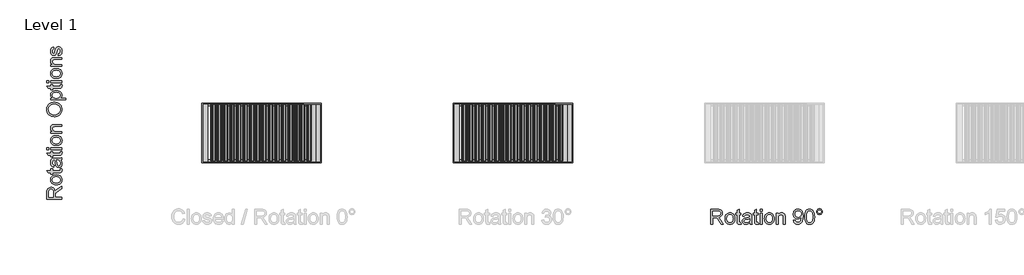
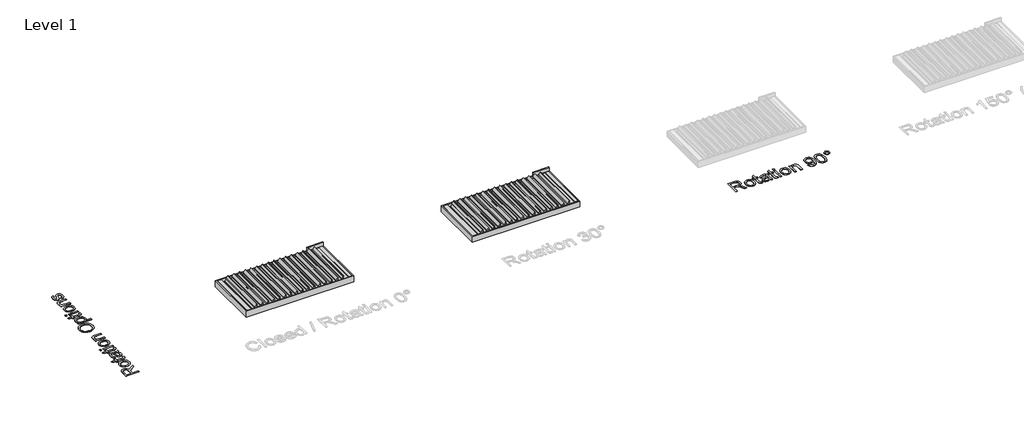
# One storey, part 8 of 12: 4 proxies.
"""IFC4 building model written with IfcOpenShell, lengths in millimetres."""

from ifc_helpers import new_model, si_unit, origin, origin_with_axes, place, context, project, spatial, polyline, outline, extrude, transform, mapped, element, save
from components import generic_models_456f33a1

model = new_model("IFC4")

# Units and contexts
model_context = context("Model", 3, world=origin())
ifc_project = project(units=[si_unit("LENGTHUNIT", "METRE", prefix="MILLI")], contexts=[model_context])

# Site, building, storey
site = spatial("IfcSite", under=ifc_project)
building = spatial("IfcBuilding", under=site)
storey = spatial("IfcBuildingStorey", under=building, Name="Level 1", Elevation=0.0)

# Proxies
placement = place(None, origin())
generic_models_shape = generic_models_456f33a1(model_context)
element("IfcBuildingElementProxy", 1, Name="Renson_Aero_Patio covers : Aero - Single", ObjectType="Renson_Aero_Patio covers : Aero - Single", at=placement, inside=storey, context=model_context, shape_type="MappedRepresentation", body=[
    mapped(generic_models_shape, transform((-9296.834943, 17701.5921629, 0.0), x_axis=(1.0, 0.0, 0.0), y_axis=(0.0, 1.0, 0.0), z_axis=(0.0, 0.0, 1.0))),
])
element("IfcBuildingElementProxy", 2, Name="Renson_Aero_Patio covers : Aero - Single", ObjectType="Renson_Aero_Patio covers : Aero - Single", at=placement, inside=storey, context=model_context, shape_type="MappedRepresentation", body=[
    mapped(generic_models_shape, transform((-876.4919488, 17701.5921629, 0.0), x_axis=(1.0, 0.0, 0.0), y_axis=(0.0, 1.0, 0.0), z_axis=(0.0, 0.0, 1.0))),
])
element("IfcBuildingElementProxy", 3, Name="500mm Arial", ObjectType="500mm Arial", at=placement, inside=storey, context=model_context, shape_type="SweptSolid", body=[
    extrude(outline(polyline([(-15987.0073412, 15483.5143669), (-16489.2888919, 15483.5143669), (-16489.2888919, 15699.9516074), (-16485.9013119, 15758.1229479), (-16475.7385718, 15800.4447058), (-16456.97659, 15831.3774502), (-16427.7912851, 15855.3817504), (-16391.6008938, 15870.7868089), (-16351.823653, 15875.9218284), (-16326.0259281, 15873.7950107), (-16302.3435247, 15867.4145573), (-16280.7764427, 15856.7804684), (-16261.3246822, 15841.8927439), (-16244.6090441, 15822.5597786), (-16231.2503291, 15798.5899674), (-16221.2485374, 15769.9833102), (-16214.6036688, 15736.7398069), (-16201.0840055, 15757.4331692), (-16187.7482832, 15772.4243605), (-16123.1236794, 15823.3147031), (-15987.0073412, 15907.0691707), (-15987.0073412, 15834.1059083), (-16091.1179458, 15768.7455405), (-16160.0345062, 15721.5340178), (-16180.1300602, 15703.982981), (-16192.5920628, 15688.3633246), (-16204.5482276, 15658.5035693), (-16206.7555196, 15622.0832518), (-16206.7555196, 15546.2995608), (-15987.0073412, 15546.2995608), (-15987.0073412, 15483.5143669)]), holes=[polyline([(-16269.5407135, 15546.2995608), (-16269.5407135, 15686.8304829), (-16271.7633338, 15727.1902035), (-16278.431195, 15758.5061583), (-16289.988821, 15782.0812628), (-16306.880736, 15799.2184325), (-16327.3135151, 15809.6570841), (-16349.4937337, 15813.1366346), (-16365.55025, 15811.4773335), (-16380.1199098, 15806.4994303), (-16393.2027133, 15798.2029249), (-16404.7986604, 15786.5878173), (-16414.2946144, 15771.3858603), (-16421.0774386, 15752.3288065), (-16426.5036981, 15702.6494087), (-16426.5036981, 15546.2995608), (-16269.5407135, 15546.2995608)])]), origin_with_axes(), (0.0, 0.0, 1.0), 5.0),
    extrude(outline(polyline([(-16171.4388481, 15962.25147), (-16219.209858, 15965.6467142), (-16260.3743204, 15975.832447), (-16294.9322353, 15992.8086682), (-16322.8836028, 16016.5753779), (-16340.7488722, 16040.503036), (-16353.5097789, 16066.9138976), (-16361.1663229, 16095.8079626), (-16363.7185042, 16127.1852312), (-16360.6106678, 16161.8236203), (-16351.2871585, 16193.1434072), (-16335.7479763, 16221.144592), (-16313.9931212, 16245.8271746), (-16286.7583573, 16265.9725459), (-16254.7794484, 16280.3620969), (-16218.0563947, 16288.9958275), (-16176.589196, 16291.8737377), (-16113.1602087, 16286.7847034), (-16087.1248933, 16280.4234106), (-16064.8756968, 16271.5176006), (-16045.6576947, 16260.1784045), (-16028.7159624, 16246.5169533), (-16014.0504999, 16230.5332471), (-16001.6613073, 16212.2272857), (-15984.7847208, 16171.4996832), (-15979.1591919, 16127.1852312), (-15982.2555321, 16092.0410043), (-15991.5445524, 16060.4299774), (-16007.0262531, 16032.3521506), (-16028.700634, 16007.8075237), (-16056.1998131, 15987.8767502), (-16089.1559085, 15973.6404834), (-16127.5689202, 15965.0987233), (-16171.4388481, 15962.25147)]), holes=[polyline([(-16171.5614754, 16025.0366638), (-16141.107744, 16026.8530812), (-16114.7390356, 16032.3023332), (-16092.4553501, 16041.38442), (-16074.2566877, 16054.0993414), (-16060.1200556, 16069.5657137), (-16050.0224613, 16086.9021527), (-16043.9639046, 16106.1086585), (-16041.9443858, 16127.1852312), (-16043.975401, 16148.1545049), (-16050.0684465, 16167.2843686), (-16060.2235224, 16184.5748224), (-16074.4406287, 16200.0258662), (-16092.8194, 16212.7407877), (-16115.4594711, 16221.8228744), (-16142.360842, 16227.2721265), (-16173.5235127, 16229.0885438), (-16203.0115539, 16227.2606302), (-16228.6904836, 16221.7768892), (-16250.5603018, 16212.6373208), (-16268.6210085, 16199.8419252), (-16282.7576406, 16184.3333998), (-16292.8552349, 16167.0544424), (-16298.9137915, 16148.0050528), (-16300.9333104, 16127.1852312), (-16298.9214557, 16106.1086585), (-16292.8858917, 16086.9021527), (-16282.8266184, 16069.5657137), (-16268.7436358, 16054.0993414), (-16250.5986228, 16041.38442), (-16228.3532584, 16032.3023332), (-16202.0075426, 16026.8530812), (-16171.5614754, 16025.0366638)])]), origin_with_axes(), (0.0, 0.0, 1.0), 5.0),
    extrude(outline(polyline([(-16039.3692118, 16495.9256177), (-15985.1679312, 16503.7737669), (-15979.1591919, 16456.8074988), (-15981.7650227, 16426.6718321), (-15989.5825151, 16404.2003735), (-16001.6306505, 16388.3201341), (-16016.9284101, 16377.9581245), (-16043.2013159, 16372.2559536), (-16088.1748898, 16370.35523), (-16293.0851612, 16370.35523), (-16293.0851612, 16323.2663346), (-16355.870355, 16323.2663346), (-16355.870355, 16370.35523), (-16445.5109345, 16370.35523), (-16482.4217613, 16433.1404238), (-16355.870355, 16433.1404238), (-16355.870355, 16495.9256177), (-16293.0851612, 16495.9256177), (-16293.0851612, 16433.1404238), (-16090.0142998, 16433.1404238), (-16057.6406842, 16436.4513618), (-16046.1750287, 16447.1812533), (-16041.9443858, 16468.5797227), (-16039.3692118, 16495.9256177)])), origin_with_axes(), (0.0, 0.0, 1.0), 5.0),
    extrude(outline(polyline([(-16034.0962365, 16794.1552884), (-16008.3751537, 16764.1575774), (-15991.5445524, 16733.2708182), (-15982.2555321, 16700.7899037), (-15979.1591919, 16666.0097268), (-15981.0215945, 16638.0545272), (-15986.6088023, 16613.5405572), (-15995.9208153, 16592.4678167), (-16008.9576335, 16574.8363056), (-16024.8915225, 16560.9142714), (-16042.8947476, 16550.9699612), (-16062.967309, 16545.0033751), (-16085.1092065, 16543.014513), (-16111.1368577, 16546.0188827), (-16134.7732759, 16555.0319915), (-16155.0067856, 16568.9348653), (-16170.8257114, 16586.6085295), (-16182.7818763, 16607.3785338), (-16191.4271032, 16630.5704279), (-16200.8694077, 16684.8943358), (-16210.8022216, 16749.089744), (-16222.4518181, 16793.7874064), (-16236.4313339, 16794.1552884), (-16264.4516792, 16789.832675), (-16282.7844653, 16776.8648346), (-16290.724585, 16763.7896954), (-16296.3960991, 16747.8634707), (-16300.9333104, 16707.4577649), (-16297.9136123, 16670.0564287), (-16288.8545182, 16643.936807), (-16272.100559, 16626.1251871), (-16245.9962658, 16613.6478561), (-16253.844415, 16550.8626623), (-16288.1800679, 16561.7611664), (-16315.1580809, 16578.0246162), (-16335.7901294, 16601.1705251), (-16351.0878891, 16632.7164062), (-16360.5608504, 16671.2980304), (-16363.7185042, 16715.5511688), (-16360.9287324, 16757.995554), (-16352.559417, 16791.6414281), (-16339.9747871, 16817.0099574), (-16324.5390717, 16834.6223079), (-16305.4551932, 16846.3025612), (-16281.926074, 16853.874799), (-16226.9890294, 16856.9404823), (-16148.875419, 16856.9404823), (-16039.7984075, 16860.1287929), (-16012.8357229, 16864.8499452), (-15987.0073412, 16872.6367807), (-15987.0073412, 16809.8515869), (-16008.8350062, 16799.7961457), (-16034.0962365, 16794.1552884)]), holes=[polyline([(-16159.6666242, 16794.1552884), (-16149.2126442, 16751.9714863), (-16140.4141332, 16692.8651124), (-16130.2360646, 16638.8477728), (-16123.2769635, 16624.7916149), (-16113.6813748, 16614.3836201), (-16102.1850625, 16607.9456852), (-16089.5237905, 16605.7997069), (-16070.8537792, 16610.4748739), (-16055.5560196, 16624.500375), (-16045.3472942, 16647.5696417), (-16041.9443858, 16679.3761059), (-16045.6998478, 16713.0986221), (-16056.9662339, 16742.8970637), (-16073.5669089, 16767.0546481), (-16093.3252378, 16783.8545925), (-16113.6813748, 16791.3042029), (-16141.8856611, 16793.7874064), (-16159.6666242, 16794.1552884)])]), origin_with_axes(), (0.0, 0.0, 1.0), 5.0),
    extrude(outline(polyline([(-16039.3692118, 17076.6886607), (-15985.1679312, 17084.5368099), (-15979.1591919, 17037.5705419), (-15981.7650227, 17007.4348751), (-15989.5825151, 16984.9634166), (-16001.6306505, 16969.0831771), (-16016.9284101, 16958.7211676), (-16043.2013159, 16953.0189967), (-16088.1748898, 16951.118273), (-16293.0851612, 16951.118273), (-16293.0851612, 16904.0293776), (-16355.870355, 16904.0293776), (-16355.870355, 16951.118273), (-16445.5109345, 16951.118273), (-16482.4217613, 17013.9034669), (-16355.870355, 17013.9034669), (-16355.870355, 17076.6886607), (-16293.0851612, 17076.6886607), (-16293.0851612, 17013.9034669), (-16090.0142998, 17013.9034669), (-16057.6406842, 17017.2144048), (-16046.1750287, 17027.9442963), (-16041.9443858, 17049.3427657), (-16039.3692118, 17076.6886607)])), origin_with_axes(), (0.0, 0.0, 1.0), 5.0),
    extrude(outline(polyline([(-16426.5036981, 17139.4738545), (-16489.2888919, 17139.4738545), (-16489.2888919, 17202.2590484), (-16426.5036981, 17202.2590484), (-16426.5036981, 17139.4738545)])), origin_with_axes(), (0.0, 0.0, 1.0), 5.0),
    extrude(outline(polyline([(-15987.0073412, 17139.4738545), (-16355.870355, 17139.4738545), (-16355.870355, 17202.2590484), (-15987.0073412, 17202.2590484), (-15987.0073412, 17139.4738545)])), origin_with_axes(), (0.0, 0.0, 1.0), 5.0),
    extrude(outline(polyline([(-16171.4388481, 17280.7405407), (-16219.209858, 17284.1357849), (-16260.3743204, 17294.3215177), (-16294.9322353, 17311.2977389), (-16322.8836028, 17335.0644487), (-16340.7488722, 17358.9921068), (-16353.5097789, 17385.4029683), (-16361.1663229, 17414.2970334), (-16363.7185042, 17445.6743019), (-16360.6106678, 17480.312691), (-16351.2871585, 17511.6324779), (-16335.7479763, 17539.6336627), (-16313.9931212, 17564.3162453), (-16286.7583573, 17584.4616167), (-16254.7794484, 17598.8511676), (-16218.0563947, 17607.4848982), (-16176.589196, 17610.3628084), (-16113.1602087, 17605.2737741), (-16087.1248933, 17598.9124813), (-16064.8756968, 17590.0066713), (-16045.6576947, 17578.6674752), (-16028.7159624, 17565.0060241), (-16014.0504999, 17549.0223178), (-16001.6613073, 17530.7163564), (-15984.7847208, 17489.9887539), (-15979.1591919, 17445.6743019), (-15982.2555321, 17410.530075), (-15991.5445524, 17378.9190482), (-16007.0262531, 17350.8412213), (-16028.700634, 17326.2965944), (-16056.1998131, 17306.3658209), (-16089.1559085, 17292.1295541), (-16127.5689202, 17283.5877941), (-16171.4388481, 17280.7405407)]), holes=[polyline([(-16171.5614754, 17343.5257345), (-16141.107744, 17345.3421519), (-16114.7390356, 17350.7914039), (-16092.4553501, 17359.8734907), (-16074.2566877, 17372.5884122), (-16060.1200556, 17388.0547844), (-16050.0224613, 17405.3912234), (-16043.9639046, 17424.5977292), (-16041.9443858, 17445.6743019), (-16043.975401, 17466.6435756), (-16050.0684465, 17485.7734393), (-16060.2235224, 17503.0638931), (-16074.4406287, 17518.5149369), (-16092.8194, 17531.2298584), (-16115.4594711, 17540.3119451), (-16142.360842, 17545.7611972), (-16173.5235127, 17547.5776145), (-16203.0115539, 17545.7497009), (-16228.6904836, 17540.2659599), (-16250.5603018, 17531.1263916), (-16268.6210085, 17518.3309959), (-16282.7576406, 17502.8224706), (-16292.8552349, 17485.5435131), (-16298.9137915, 17466.4941235), (-16300.9333104, 17445.6743019), (-16298.9214557, 17424.5977292), (-16292.8858917, 17405.3912234), (-16282.8266184, 17388.0547844), (-16268.7436358, 17372.5884122), (-16250.5986228, 17359.8734907), (-16228.3532584, 17350.7914039), (-16202.0075426, 17345.3421519), (-16171.5614754, 17343.5257345)])]), origin_with_axes(), (0.0, 0.0, 1.0), 5.0),
    extrude(outline(polyline([(-15987.0073412, 17680.9961515), (-16355.870355, 17680.9961515), (-16355.870355, 17743.7813453), (-16304.3668757, 17743.7813453), (-16330.3332132, 17765.5936819), (-16348.8805971, 17791.7899457), (-16360.0090274, 17822.3701365), (-16363.7185042, 17857.3342545), (-16360.729463, 17888.2823273), (-16351.7623394, 17916.6245694), (-16337.9361077, 17940.2609876), (-16320.3697425, 17957.0915888), (-16299.1092288, 17968.5112591), (-16274.2005521, 17975.9148843), (-16213.5000229, 17979.2258222), (-15987.0073412, 17979.2258222), (-15987.0073412, 17916.4406284), (-16205.038737, 17916.4406284), (-16237.504323, 17914.6318752), (-16260.5889182, 17909.2056158), (-16277.1282796, 17899.1961598), (-16289.9581642, 17883.6378171), (-16298.1895238, 17863.6955473), (-16300.9333104, 17840.53431), (-16299.3928045, 17821.469592), (-16294.771287, 17803.7614389), (-16287.0687577, 17787.4098507), (-16276.2852167, 17772.4148273), (-16261.1943907, 17759.8876789), (-16240.5700063, 17750.9397158), (-16214.4120636, 17745.5709379), (-16182.7205626, 17743.7813453), (-15987.0073412, 17743.7813453), (-15987.0073412, 17680.9961515)])), origin_with_axes(), (0.0, 0.0, 1.0), 5.0),
    extrude(outline(polyline([(-16231.5262406, 18246.062896), (-16290.4410093, 18250.2475537), (-16342.5959463, 18262.8015268), (-16387.9910517, 18283.7248153), (-16426.6263254, 18313.0174192), (-16457.4747635, 18348.9242347), (-16479.5093622, 18389.6901583), (-16492.7301214, 18435.3151899), (-16497.1370411, 18485.7993296), (-16495.0677049, 18519.5908237), (-16488.8596963, 18551.6808635), (-16478.5130151, 18582.0694492), (-16464.0276616, 18610.7565806), (-16445.8404954, 18636.9375159), (-16424.3883766, 18659.8075133), (-16399.671305, 18679.3665727), (-16371.6892808, 18695.6146941), (-16341.0784331, 18708.3832651), (-16308.4748913, 18717.5036729), (-16273.8786553, 18722.9759175), (-16237.2897252, 18724.7999991), (-16200.21795, 18722.8801149), (-16165.1541973, 18717.1204624), (-16132.0984672, 18707.5210416), (-16101.0507597, 18694.0818525), (-16072.831145, 18677.1209597), (-16048.2596934, 18656.9564278), (-16027.3364049, 18633.5882569), (-16010.0612795, 18607.016447), (-15996.5416162, 18578.2871624), (-15986.8847138, 18548.4465677), (-15981.0905724, 18517.4946627), (-15979.1591919, 18485.4314476), (-15981.2936739, 18451.0498094), (-15987.6971199, 18418.5382381), (-15998.3695299, 18387.8967336), (-16013.3109038, 18359.1252959), (-16031.942594, 18332.9750174), (-16053.6859528, 18310.1969905), (-16078.5409801, 18290.7912153), (-16106.5076759, 18274.7576917), (-16136.4632338, 18262.2037186), (-16167.2848472, 18253.2365949), (-16198.9725162, 18247.8563208), (-16231.5262406, 18246.062896)]), holes=[polyline([(-16230.913104, 18308.8480899), (-16189.2887891, 18311.9865832), (-16152.3396412, 18321.402063), (-16120.0656603, 18337.0945293), (-16092.4668465, 18359.0639822), (-16070.3632699, 18385.7699158), (-16054.5750009, 18415.6718242), (-16045.1020396, 18448.7697075), (-16041.9443858, 18485.0635656), (-16045.1326964, 18521.9782245), (-16054.6976283, 18555.4669824), (-16070.6391814, 18585.5298392), (-16092.9573558, 18612.1667949), (-16121.1386494, 18633.9752994), (-16154.6695605, 18649.5528027), (-16193.5500888, 18658.8993046), (-16237.7802345, 18662.0148053), (-16293.3610726, 18656.6805163), (-16341.4003299, 18640.6776495), (-16362.2891294, 18628.7789663), (-16380.6870613, 18614.4200721), (-16396.5941254, 18597.6009672), (-16410.010322, 18578.3216514), (-16420.6597393, 18557.1799329), (-16428.266466, 18534.7736202), (-16432.830502, 18511.102713), (-16434.3518473, 18486.1672116), (-16431.4202877, 18451.1341157), (-16422.6256087, 18418.6302086), (-16407.9678105, 18388.6554902), (-16387.4468929, 18361.2099605), (-16360.0741732, 18338.3016421), (-16324.8609685, 18321.9385575), (-16281.8072787, 18312.1207068), (-16230.913104, 18308.8480899)])]), origin_with_axes(), (0.0, 0.0, 1.0), 5.0),
    extrude(outline(polyline([(-15845.740655, 18803.2814914), (-16355.870355, 18803.2814914), (-16355.870355, 18866.0666852), (-16294.3114345, 18866.0666852), (-16324.6770275, 18886.5454496), (-16346.3667368, 18909.4767607), (-16359.3805624, 18936.209519), (-16363.7185042, 18968.0926252), (-16362.200991, 18989.9892682), (-16357.6484513, 19010.5523389), (-16350.0608852, 19029.7818373), (-16339.4382925, 19047.6777635), (-16326.056585, 19063.8492429), (-16310.1916739, 19077.9054008), (-16271.0122414, 19099.6717522), (-16224.7510805, 19112.8235335), (-16174.2592767, 19117.2074606), (-16120.5638338, 19112.2563821), (-16072.539905, 19097.4031465), (-16051.264063, 19086.3820151), (-16032.6247086, 19073.1229349), (-16016.6218418, 19057.6259058), (-16003.2554626, 19039.890928), (-15985.1832596, 19001.1866764), (-15979.1591919, 18960.4897307), (-15983.1905655, 18931.6263225), (-15995.2846861, 18905.8592544), (-16013.5408301, 18883.8016631), (-16036.0582739, 18866.0666852), (-15845.740655, 18866.0666852), (-15845.740655, 18803.2814914)]), holes=[polyline([(-16168.4957921, 18866.0666852), (-16138.237498, 18867.7643074), (-16112.2098469, 18872.8571737), (-16090.4128386, 18881.3452844), (-16072.8464734, 18893.2286392), (-16059.3268101, 18907.5338839), (-16049.6699077, 18923.2876639), (-16043.8757663, 18940.4899793), (-16041.9443858, 18959.14083), (-16043.9447441, 18978.059928), (-16049.9458192, 18995.576476), (-16059.9476109, 19011.6904738), (-16073.9501194, 19026.4019215), (-16092.1526139, 19038.6608225), (-16114.754364, 19047.4171805), (-16141.7553696, 19052.6709952), (-16173.1556307, 19054.4222668), (-16203.1533417, 19052.7131483), (-16229.1350077, 19047.585793), (-16251.1006285, 19039.0402009), (-16269.0502041, 19027.0763718), (-16282.9990631, 19012.7366382), (-16292.9625338, 18997.0633324), (-16298.9406162, 18980.0564543), (-16300.9333104, 18961.716004), (-16298.8141568, 18943.4330353), (-16292.4566961, 18926.2307199), (-16281.8609282, 18910.1090579), (-16267.0268532, 18895.0680492), (-16248.1537404, 18882.3799525), (-16225.4408593, 18873.3170262), (-16198.8882099, 18867.8792705), (-16168.4957921, 18866.0666852)])]), origin_with_axes(), (0.0, 0.0, 1.0), 5.0),
    extrude(outline(polyline([(-16039.3692118, 19321.2593406), (-15985.1679312, 19329.1074898), (-15979.1591919, 19282.1412218), (-15981.7650227, 19252.005555), (-15989.5825151, 19229.5340965), (-16001.6306505, 19213.653857), (-16016.9284101, 19203.2918475), (-16043.2013159, 19197.5896766), (-16088.1748898, 19195.6889529), (-16293.0851612, 19195.6889529), (-16293.0851612, 19148.6000575), (-16355.870355, 19148.6000575), (-16355.870355, 19195.6889529), (-16445.5109345, 19195.6889529), (-16482.4217613, 19258.4741468), (-16355.870355, 19258.4741468), (-16355.870355, 19321.2593406), (-16293.0851612, 19321.2593406), (-16293.0851612, 19258.4741468), (-16090.0142998, 19258.4741468), (-16057.6406842, 19261.7850847), (-16046.1750287, 19272.5149763), (-16041.9443858, 19293.9134456), (-16039.3692118, 19321.2593406)])), origin_with_axes(), (0.0, 0.0, 1.0), 5.0),
    extrude(outline(polyline([(-15987.0073412, 19384.0445345), (-16355.870355, 19384.0445345), (-16355.870355, 19446.8297283), (-15987.0073412, 19446.8297283), (-15987.0073412, 19384.0445345)])), origin_with_axes(), (0.0, 0.0, 1.0), 5.0),
    extrude(outline(polyline([(-16426.5036981, 19384.0445345), (-16489.2888919, 19384.0445345), (-16489.2888919, 19446.8297283), (-16426.5036981, 19446.8297283), (-16426.5036981, 19384.0445345)])), origin_with_axes(), (0.0, 0.0, 1.0), 5.0),
    extrude(outline(polyline([(-16171.4388481, 19525.3112206), (-16219.209858, 19528.7064649), (-16260.3743204, 19538.8921976), (-16294.9322353, 19555.8684188), (-16322.8836028, 19579.6351286), (-16340.7488722, 19603.5627867), (-16353.5097789, 19629.9736482), (-16361.1663229, 19658.8677133), (-16363.7185042, 19690.2449818), (-16360.6106678, 19724.8833709), (-16351.2871585, 19756.2031578), (-16335.7479763, 19784.2043426), (-16313.9931212, 19808.8869252), (-16286.7583573, 19829.0322966), (-16254.7794484, 19843.4218475), (-16218.0563947, 19852.0555781), (-16176.589196, 19854.9334883), (-16113.1602087, 19849.844454), (-16087.1248933, 19843.4831612), (-16064.8756968, 19834.5773512), (-16045.6576947, 19823.2381551), (-16028.7159624, 19809.576704), (-16014.0504999, 19793.5929977), (-16001.6613073, 19775.2870363), (-15984.7847208, 19734.5594338), (-15979.1591919, 19690.2449818), (-15982.2555321, 19655.1007549), (-15991.5445524, 19623.4897281), (-16007.0262531, 19595.4119012), (-16028.700634, 19570.8672743), (-16056.1998131, 19550.9365008), (-16089.1559085, 19536.700234), (-16127.5689202, 19528.158474), (-16171.4388481, 19525.3112206)]), holes=[polyline([(-16171.5614754, 19588.0964144), (-16141.107744, 19589.9128318), (-16114.7390356, 19595.3620839), (-16092.4553501, 19604.4441706), (-16074.2566877, 19617.1590921), (-16060.1200556, 19632.6254643), (-16050.0224613, 19649.9619033), (-16043.9639046, 19669.1684091), (-16041.9443858, 19690.2449818), (-16043.975401, 19711.2142555), (-16050.0684465, 19730.3441192), (-16060.2235224, 19747.634573), (-16074.4406287, 19763.0856168), (-16092.8194, 19775.8005383), (-16115.4594711, 19784.882625), (-16142.360842, 19790.3318771), (-16173.5235127, 19792.1482944), (-16203.0115539, 19790.3203808), (-16228.6904836, 19784.8366398), (-16250.5603018, 19775.6970715), (-16268.6210085, 19762.9016758), (-16282.7576406, 19747.3931505), (-16292.8552349, 19730.114193), (-16298.9137915, 19711.0648034), (-16300.9333104, 19690.2449818), (-16298.9214557, 19669.1684091), (-16292.8858917, 19649.9619033), (-16282.8266184, 19632.6254643), (-16268.7436358, 19617.1590921), (-16250.5986228, 19604.4441706), (-16228.3532584, 19595.3620839), (-16202.0075426, 19589.9128318), (-16171.5614754, 19588.0964144)])]), origin_with_axes(), (0.0, 0.0, 1.0), 5.0),
    extrude(outline(polyline([(-15987.0073412, 19925.5668314), (-16355.870355, 19925.5668314), (-16355.870355, 19988.3520252), (-16304.3668757, 19988.3520252), (-16330.3332132, 20010.1643618), (-16348.8805971, 20036.3606256), (-16360.0090274, 20066.9408164), (-16363.7185042, 20101.9049344), (-16360.729463, 20132.8530072), (-16351.7623394, 20161.1952493), (-16337.9361077, 20184.8316675), (-16320.3697425, 20201.6622687), (-16299.1092288, 20213.081939), (-16274.2005521, 20220.4855642), (-16213.5000229, 20223.7965021), (-15987.0073412, 20223.7965021), (-15987.0073412, 20161.0113083), (-16205.038737, 20161.0113083), (-16237.504323, 20159.2025551), (-16260.5889182, 20153.7762957), (-16277.1282796, 20143.7668397), (-16289.9581642, 20128.208497), (-16298.1895238, 20108.2662272), (-16300.9333104, 20085.1049899), (-16299.3928045, 20066.040272), (-16294.771287, 20048.3321188), (-16287.0687577, 20031.9805306), (-16276.2852167, 20016.9855072), (-16261.1943907, 20004.4583588), (-16240.5700063, 19995.5103957), (-16214.4120636, 19990.1416178), (-16182.7205626, 19988.3520252), (-15987.0073412, 19988.3520252), (-15987.0073412, 19925.5668314)])), origin_with_axes(), (0.0, 0.0, 1.0), 5.0),
    extrude(outline(polyline([(-16096.8814304, 20286.581696), (-16104.7295796, 20349.3668898), (-16077.874194, 20359.2690468), (-16058.1311936, 20378.4295674), (-16045.9910877, 20406.9710789), (-16041.9443858, 20445.0162085), (-16045.6538626, 20482.6014857), (-16056.7822929, 20509.0276757), (-16072.907787, 20524.6626605), (-16091.6084551, 20529.8743221), (-16107.6113219, 20524.6320037), (-16119.8127414, 20508.9050484), (-16137.7163319, 20444.2804446), (-16154.2863501, 20386.9828238), (-16168.4344785, 20349.7347718), (-16183.8701938, 20325.8071137), (-16204.302973, 20308.4706747), (-16228.4299005, 20297.9400526), (-16254.948061, 20294.4298452), (-16279.2742579, 20297.2502738), (-16301.730388, 20305.7115597), (-16321.4274032, 20319.047282), (-16337.4762552, 20336.49102), (-16347.5776817, 20353.827459), (-16356.054296, 20376.4062164), (-16361.8024522, 20402.5105097), (-16363.7185042, 20430.4235561), (-16360.6374925, 20471.2891144), (-16351.3944574, 20506.8203837), (-16336.8937754, 20535.392552), (-16318.0398232, 20555.3808071), (-16293.4377147, 20568.6245589), (-16261.6925642, 20576.9632175), (-16253.844415, 20514.1780236), (-16273.6027438, 20506.2532323), (-16288.4866362, 20490.5722623), (-16297.8216418, 20466.9818293), (-16300.9333104, 20435.3286493), (-16297.9595976, 20399.2762138), (-16289.0384592, 20375.2412568), (-16276.1625894, 20361.7215935), (-16261.3246822, 20357.215039), (-16251.6677799, 20359.0851058), (-16243.0532098, 20364.6953063), (-16235.3583447, 20374.290895), (-16229.1963213, 20388.1171266), (-16215.8299422, 20442.1957799), (-16186.2767552, 20534.3502197), (-16172.1439552, 20558.6917451), (-16152.7994937, 20577.1471585), (-16128.1820568, 20588.7814266), (-16098.230331, 20592.6595159), (-16067.2669298, 20588.1069763), (-16038.1429385, 20574.4493572), (-16013.1422912, 20552.2078249), (-15994.5489221, 20521.9035455), (-15983.0066245, 20485.299287), (-15979.1591919, 20444.1578172), (-15981.0139303, 20410.3663231), (-15986.5781455, 20380.8514572), (-15995.8518375, 20355.6132195), (-16008.8350062, 20334.65161), (-16025.4663381, 20317.5297688), (-16045.6845194, 20303.8108361), (-16069.4895502, 20293.4948118), (-16096.8814304, 20286.581696)])), origin_with_axes(), (0.0, 0.0, 1.0), 5.0),
])
element("IfcBuildingElementProxy", 4, Name="500mm Arial", ObjectType="500mm Arial", at=placement, inside=storey, context=model_context, shape_type="SweptSolid", body=[
    extrude(outline(polyline([(5745.311698, 14645.8072853), (5745.311698, 15148.088836), (5961.7489385, 15148.088836), (6019.920279, 15144.701256), (6062.2420369, 15134.5385159), (6093.1747813, 15115.7765341), (6117.1790815, 15086.5912292), (6132.5841401, 15050.4008379), (6137.7191596, 15010.6235972), (6135.5923418, 14984.8258723), (6129.2118884, 14961.1434688), (6118.5777995, 14939.5763869), (6103.690075, 14920.1246264), (6084.3571097, 14903.4089882), (6060.3872985, 14890.0502733), (6031.7806413, 14880.0484815), (5998.5371381, 14873.403613), (6019.2305003, 14859.8839496), (6034.2216916, 14846.5482273), (6085.1120343, 14781.9236235), (6168.8665018, 14645.8072853), (6095.9032394, 14645.8072853), (6030.5428716, 14749.9178899), (5983.3313489, 14818.8344504), (5965.7803121, 14838.9300043), (5950.1606557, 14851.3920069), (5920.3009004, 14863.3481718), (5883.8805829, 14865.5554637), (5808.0968919, 14865.5554637), (5808.0968919, 14645.8072853), (5745.311698, 14645.8072853)]), holes=[polyline([(5808.0968919, 14928.3406576), (5948.627814, 14928.3406576), (5988.9875346, 14930.563278), (6020.3034894, 14937.2311391), (6043.878594, 14948.7887652), (6061.0157636, 14965.6806801), (6071.4544152, 14986.1134592), (6074.9339657, 15008.2936779), (6073.2746646, 15024.3501941), (6068.2967614, 15038.919854), (6060.000256, 15052.0026574), (6048.3851484, 15063.5986045), (6033.1831914, 15073.0945585), (6014.1261376, 15079.8773828), (5964.4467398, 15085.3036422), (5808.0968919, 15085.3036422), (5808.0968919, 14928.3406576)])]), origin_with_axes(), (0.0, 0.0, 1.0), 5.0),
    extrude(outline(polyline([(6224.0488011, 14830.2387922), (6227.4440453, 14878.0098021), (6237.6297781, 14919.1742645), (6254.6059993, 14953.7321795), (6278.3727091, 14981.6835469), (6302.3003672, 14999.5488163), (6328.7112287, 15012.309723), (6357.6052938, 15019.966267), (6388.9825623, 15022.5184484), (6423.6209514, 15019.4106119), (6454.9407383, 15010.0871026), (6482.9419231, 14994.5479204), (6507.6245057, 14972.7930653), (6527.7698771, 14945.5583014), (6542.159428, 14913.5793925), (6550.7931586, 14876.8563388), (6553.6710688, 14835.3891401), (6548.5820345, 14771.9601528), (6542.2207417, 14745.9248374), (6533.3149317, 14723.6756409), (6521.9757356, 14704.4576388), (6508.3142845, 14687.5159065), (6492.3305782, 14672.850444), (6474.0246168, 14660.4612514), (6433.2970143, 14643.5846649), (6388.9825623, 14637.9591361), (6353.8383354, 14641.0554762), (6322.2273086, 14650.3444966), (6294.1494817, 14665.8261972), (6269.6048548, 14687.5005781), (6249.6740813, 14714.9997572), (6235.4378145, 14747.9558526), (6226.8960545, 14786.3688643), (6224.0488011, 14830.2387922)]), holes=[polyline([(6286.8339949, 14830.3614195), (6288.6504123, 14799.9076881), (6294.0996644, 14773.5389797), (6303.1817511, 14751.2552943), (6315.8966726, 14733.0566318), (6331.3630448, 14718.9199997), (6348.6994838, 14708.8224054), (6367.9059896, 14702.7638488), (6388.9825623, 14700.7443299), (6409.951836, 14702.7753451), (6429.0816997, 14708.8683906), (6446.3721535, 14719.0234665), (6461.8231973, 14733.2405728), (6474.5381188, 14751.6193442), (6483.6202055, 14774.2594153), (6489.0694576, 14801.1607862), (6490.8858749, 14832.3234568), (6489.0579613, 14861.811498), (6483.5742203, 14887.4904277), (6474.434652, 14909.3602459), (6461.6392563, 14927.4209526), (6446.130731, 14941.5575847), (6428.8517735, 14951.655179), (6409.8023839, 14957.7137356), (6388.9825623, 14959.7332545), (6367.9059896, 14957.7213998), (6348.6994838, 14951.6858359), (6331.3630448, 14941.6265626), (6315.8966726, 14927.5435799), (6303.1817511, 14909.3985669), (6294.0996644, 14887.1532025), (6288.6504123, 14860.8074867), (6286.8339949, 14830.3614195)])]), origin_with_axes(), (0.0, 0.0, 1.0), 5.0),
    extrude(outline(polyline([(6757.7229488, 14698.1691559), (6765.571098, 14643.9678753), (6718.60483, 14637.9591361), (6688.4691632, 14640.5649669), (6665.9977046, 14648.3824593), (6650.1174652, 14660.4305946), (6639.7554557, 14675.7283542), (6634.0532847, 14702.0012601), (6632.1525611, 14746.974834), (6632.1525611, 14951.8851053), (6585.0636657, 14951.8851053), (6585.0636657, 15014.6702991), (6632.1525611, 15014.6702991), (6632.1525611, 15104.3108786), (6694.9377549, 15141.2217055), (6694.9377549, 15014.6702991), (6757.7229488, 15014.6702991), (6757.7229488, 14951.8851053), (6694.9377549, 14951.8851053), (6694.9377549, 14748.8142439), (6698.2486929, 14716.4406284), (6708.9785844, 14704.9749728), (6730.3770538, 14700.7443299), (6757.7229488, 14698.1691559)])), origin_with_axes(), (0.0, 0.0, 1.0), 5.0),
    extrude(outline(polyline([(7055.9526195, 14692.8961807), (7025.9549085, 14667.1750978), (6995.0681493, 14650.3444966), (6962.5872348, 14641.0554762), (6927.8070579, 14637.9591361), (6899.8518583, 14639.8215387), (6875.3378883, 14645.4087465), (6854.2651478, 14654.7207595), (6836.6336367, 14667.7575777), (6822.7116025, 14683.6914666), (6812.7672923, 14701.6946917), (6806.8007062, 14721.7672531), (6804.8118442, 14743.9091507), (6807.8162138, 14769.9368018), (6816.8293227, 14793.57322), (6830.7321964, 14813.8067298), (6848.4058606, 14829.6256555), (6869.1758649, 14841.5818204), (6892.367759, 14850.2270473), (6946.691667, 14859.6693518), (7010.8870751, 14869.6021657), (7055.5847375, 14881.2517622), (7055.9526195, 14895.231278), (7051.6300061, 14923.2516233), (7038.6621658, 14941.5844094), (7025.5870265, 14949.5245291), (7009.6608018, 14955.1960432), (6969.255096, 14959.7332545), (6931.8537598, 14956.7135565), (6905.7341382, 14947.6544623), (6887.9225182, 14930.9005031), (6875.4451872, 14904.7962099), (6812.6599934, 14912.6443591), (6823.5584975, 14946.980012), (6839.8219474, 14973.958025), (6862.9678562, 14994.5900735), (6894.5137373, 15009.8878332), (6933.0953616, 15019.3607946), (6977.3484999, 15022.5184484), (7019.7928851, 15019.7286766), (7053.4387592, 15011.3593612), (7078.8072885, 14998.7747312), (7096.419639, 14983.3390159), (7108.0998923, 14964.2551374), (7115.6721301, 14940.7260181), (7118.7378134, 14885.7889735), (7118.7378134, 14807.6753632), (7121.926124, 14698.5983516), (7126.6472763, 14671.635667), (7134.4341118, 14645.8072853), (7071.648918, 14645.8072853), (7061.5934768, 14667.6349503), (7055.9526195, 14692.8961807)]), holes=[polyline([(7055.9526195, 14818.4665684), (7013.7688174, 14808.0125883), (6954.6624435, 14799.2140773), (6900.6451039, 14789.0360087), (6886.588946, 14782.0769077), (6876.1809512, 14772.481319), (6869.7430163, 14760.9850066), (6867.597038, 14748.3237346), (6872.272205, 14729.6537234), (6886.2977061, 14714.3559637), (6909.3669729, 14704.1472384), (6941.173437, 14700.7443299), (6974.8959533, 14704.4997919), (7004.6943949, 14715.766178), (7028.8519792, 14732.3668531), (7045.6519237, 14752.1251819), (7053.1015341, 14772.481319), (7055.5847375, 14800.6856053), (7055.9526195, 14818.4665684)])]), origin_with_axes(), (0.0, 0.0, 1.0), 5.0),
    extrude(outline(polyline([(7338.4859918, 14698.1691559), (7346.3341411, 14643.9678753), (7299.367873, 14637.9591361), (7269.2322062, 14640.5649669), (7246.7607477, 14648.3824593), (7230.8805082, 14660.4305946), (7220.5184987, 14675.7283542), (7214.8163278, 14702.0012601), (7212.9156041, 14746.974834), (7212.9156041, 14951.8851053), (7165.8267088, 14951.8851053), (7165.8267088, 15014.6702991), (7212.9156041, 15014.6702991), (7212.9156041, 15104.3108786), (7275.700798, 15141.2217055), (7275.700798, 15014.6702991), (7338.4859918, 15014.6702991), (7338.4859918, 14951.8851053), (7275.700798, 14951.8851053), (7275.700798, 14748.8142439), (7279.0117359, 14716.4406284), (7289.7416275, 14704.9749728), (7311.1400968, 14700.7443299), (7338.4859918, 14698.1691559)])), origin_with_axes(), (0.0, 0.0, 1.0), 5.0),
    extrude(outline(polyline([(7401.2711857, 15085.3036422), (7401.2711857, 15148.088836), (7464.0563795, 15148.088836), (7464.0563795, 15085.3036422), (7401.2711857, 15085.3036422)])), origin_with_axes(), (0.0, 0.0, 1.0), 5.0),
    extrude(outline(polyline([(7401.2711857, 14645.8072853), (7401.2711857, 15014.6702991), (7464.0563795, 15014.6702991), (7464.0563795, 14645.8072853), (7401.2711857, 14645.8072853)])), origin_with_axes(), (0.0, 0.0, 1.0), 5.0),
    extrude(outline(polyline([(7542.5378718, 14830.2387922), (7545.9331161, 14878.0098021), (7556.1188488, 14919.1742645), (7573.09507, 14953.7321795), (7596.8617798, 14981.6835469), (7620.7894379, 14999.5488163), (7647.2002994, 15012.309723), (7676.0943645, 15019.966267), (7707.471633, 15022.5184484), (7742.1100221, 15019.4106119), (7773.429809, 15010.0871026), (7801.4309938, 14994.5479204), (7826.1135764, 14972.7930653), (7846.2589478, 14945.5583014), (7860.6484987, 14913.5793925), (7869.2822293, 14876.8563388), (7872.1601395, 14835.3891401), (7867.0711052, 14771.9601528), (7860.7098124, 14745.9248374), (7851.8040024, 14723.6756409), (7840.4648063, 14704.4576388), (7826.8033552, 14687.5159065), (7810.8196489, 14672.850444), (7792.5136875, 14660.4612514), (7751.786085, 14643.5846649), (7707.471633, 14637.9591361), (7672.3274061, 14641.0554762), (7640.7163793, 14650.3444966), (7612.6385524, 14665.8261972), (7588.0939256, 14687.5005781), (7568.163152, 14714.9997572), (7553.9268852, 14747.9558526), (7545.3851252, 14786.3688643), (7542.5378718, 14830.2387922)]), holes=[polyline([(7605.3230657, 14830.3614195), (7607.139483, 14799.9076881), (7612.5887351, 14773.5389797), (7621.6708218, 14751.2552943), (7634.3857433, 14733.0566318), (7649.8521155, 14718.9199997), (7667.1885545, 14708.8224054), (7686.3950603, 14702.7638488), (7707.471633, 14700.7443299), (7728.4409067, 14702.7753451), (7747.5707705, 14708.8683906), (7764.8612242, 14719.0234665), (7780.312268, 14733.2405728), (7793.0271895, 14751.6193442), (7802.1092762, 14774.2594153), (7807.5585283, 14801.1607862), (7809.3749457, 14832.3234568), (7807.547032, 14861.811498), (7802.063291, 14887.4904277), (7792.9237227, 14909.3602459), (7780.128327, 14927.4209526), (7764.6198017, 14941.5575847), (7747.3408442, 14951.655179), (7728.2914547, 14957.7137356), (7707.471633, 14959.7332545), (7686.3950603, 14957.7213998), (7667.1885545, 14951.6858359), (7649.8521155, 14941.6265626), (7634.3857433, 14927.5435799), (7621.6708218, 14909.3985669), (7612.5887351, 14887.1532025), (7607.139483, 14860.8074867), (7605.3230657, 14830.3614195)])]), origin_with_axes(), (0.0, 0.0, 1.0), 5.0),
    extrude(outline(polyline([(7942.7934826, 14645.8072853), (7942.7934826, 15014.6702991), (8005.5786764, 15014.6702991), (8005.5786764, 14963.1668198), (8027.391013, 14989.1331573), (8053.5872768, 15007.6805412), (8084.1674676, 15018.8089716), (8119.1315856, 15022.5184484), (8150.0796584, 15019.5294071), (8178.4219005, 15010.5622835), (8202.0583187, 14996.7360519), (8218.8889199, 14979.1696866), (8230.3085902, 14957.9091729), (8237.7122154, 14933.0004962), (8241.0231533, 14872.299967), (8241.0231533, 14645.8072853), (8178.2379595, 14645.8072853), (8178.2379595, 14863.8386811), (8176.4292063, 14896.3042672), (8171.0029469, 14919.3888624), (8160.993491, 14935.9282237), (8145.4351482, 14948.7581083), (8125.4928784, 14956.989468), (8102.3316411, 14959.7332545), (8083.2669232, 14958.1927487), (8065.55877, 14953.5712311), (8049.2071818, 14945.8687018), (8034.2121584, 14935.0851608), (8021.68501, 14919.9943348), (8012.7370469, 14899.3699505), (8007.368269, 14873.2120078), (8005.5786764, 14841.5205067), (8005.5786764, 14645.8072853), (7942.7934826, 14645.8072853)])), origin_with_axes(), (0.0, 0.0, 1.0), 5.0),
    extrude(outline(polyline([(8515.7083764, 14771.377673), (8578.4935702, 14779.2258222), (8589.2234618, 14743.5872539), (8606.6978565, 14719.3223707), (8630.4875589, 14705.3888401), (8660.1633732, 14700.7443299), (8686.7888326, 14703.7333711), (8710.9924022, 14712.7004947), (8731.1032846, 14726.6646821), (8745.4506824, 14744.6449147), (8756.3185297, 14768.2813329), (8765.9907604, 14799.2140773), (8772.7965774, 14834.7146898), (8775.065183, 14872.0547123), (8774.697301, 14884.3174455), (8752.946278, 14857.7686282), (8724.4814087, 14836.7380408), (8691.3567007, 14823.0344365), (8655.6261619, 14818.4665684), (8625.8008956, 14821.2563402), (8598.3745264, 14829.6256555), (8573.3470544, 14843.5745145), (8550.7184796, 14863.1029171), (8531.9679942, 14887.1915236), (8518.5747903, 14914.8209943), (8510.5388679, 14945.9913291), (8507.8602272, 14980.7025282), (8510.6691595, 15016.5710228), (8519.0959564, 15048.7606973), (8533.140618, 15077.271552), (8552.8031442, 15102.1035866), (8576.6963134, 15122.2221333), (8603.4329038, 15136.5925237), (8633.0129155, 15145.2147579), (8665.4363484, 15148.088836), (8689.3755028, 15146.4486955), (8712.2646607, 15141.5282738), (8734.1038221, 15133.327571), (8754.8929869, 15121.846587), (8773.9385444, 15107.3305767), (8790.5468836, 15090.0247945), (8804.7180046, 15069.9292405), (8816.4519074, 15047.0439147), (8825.6527894, 15020.0505733), (8832.224848, 14987.6309725), (8837.4824948, 14906.5129925), (8832.2401764, 14820.5052477), (8825.6872784, 14784.8245263), (8816.5132211, 14754.0259055), (8804.7524936, 14727.358293), (8790.4395847, 14704.0705963), (8773.5744945, 14684.1628154), (8754.1572229, 14667.6349503), (8732.5786447, 14654.6517816), (8709.2296343, 14645.3780896), (8684.1101918, 14639.8138745), (8657.2203172, 14637.9591361), (8629.0236951, 14640.1472675), (8603.5402027, 14646.7116619), (8580.7698401, 14657.6523191), (8560.7126071, 14672.9692393), (8543.8743416, 14692.2485551), (8530.7608814, 14715.0763993), (8521.3722263, 14741.4527719), (8515.7083764, 14771.377673)]), holes=[polyline([(8774.697301, 14982.1740562), (8773.003511, 15004.6761716), (8767.9221409, 15024.7257403), (8759.4531908, 15042.3227624), (8747.5966607, 15057.4672379), (8732.9350303, 15069.6456648), (8716.0507796, 15078.3445411), (8696.9439085, 15083.5638669), (8675.614417, 15085.3036422), (8653.6028109, 15083.4297433), (8633.6758695, 15077.8080465), (8615.8335927, 15068.438552), (8600.0759806, 15055.3212596), (8587.2001108, 15039.2225902), (8578.0030609, 15020.9089646), (8572.484831, 15000.3803829), (8570.645421, 14977.6368449), (8572.3851963, 14957.2385547), (8577.6045221, 14938.8406229), (8586.3033984, 14922.4430493), (8598.4818253, 14908.0458342), (8613.633965, 14896.3234277), (8631.2539797, 14887.9502802), (8651.3418695, 14882.9263917), (8673.8976343, 14881.2517622), (8694.9320538, 14882.9263917), (8714.0121002, 14887.9502802), (8731.1377735, 14896.3234277), (8746.3090737, 14908.0458342), (8758.7289231, 14922.7266251), (8767.6002442, 14939.9749257), (8772.9230368, 14959.7907361), (8774.697301, 14982.1740562)])]), origin_with_axes(), (0.0, 0.0, 1.0), 5.0),
    extrude(outline(polyline([(8892.4195395, 14892.9013587), (8897.0333928, 14973.2989031), (8910.8749529, 15037.4176692), (8921.221634, 15063.617765), (8933.8062639, 15086.2386756), (8948.6288426, 15105.280401), (8965.6893702, 15120.7429411), (8985.045328, 15132.7067701), (9006.7541979, 15141.2523623), (9030.8159796, 15146.3797176), (9057.2306733, 15148.088836), (9095.9195964, 15144.0421341), (9130.5618177, 15131.9020282), (9159.5325248, 15112.1436994), (9181.2069057, 15085.2423285), (9197.5776545, 15051.4278418), (9210.6374653, 15010.9301655), (9219.1907217, 14959.5033283), (9222.0418071, 14892.9013587), (9217.473939, 14812.9636668), (9203.7703347, 14748.9981849), (9193.5041278, 14722.7865928), (9180.9769794, 14700.1311932), (9166.1888896, 14681.0319863), (9149.1398584, 14665.488972), (9129.7609079, 14653.4446688), (9107.9830602, 14644.8415951), (9083.8063153, 14639.6797508), (9057.2306733, 14637.9591361), (9022.6497657, 14640.9481773), (8991.9929328, 14649.9153009), (8965.2601745, 14664.860507), (8942.4514908, 14685.7837954), (8920.5625121, 14723.6066631), (8904.9275273, 14770.7338795), (8895.5465364, 14827.1654447), (8892.4195395, 14892.9013587)]), holes=[polyline([(8955.2047333, 14893.023986), (8957.0441433, 14838.4433271), (8962.5623732, 14794.2629988), (8971.7594231, 14760.483001), (8984.6352929, 14737.1033338), (9000.208964, 14721.1962696), (9017.4994178, 14709.8340809), (9036.5066542, 14703.0167676), (9057.2306733, 14700.7443299), (9077.9546924, 14703.0244319), (9096.9619288, 14709.8647377), (9114.2523825, 14721.2652474), (9129.8260537, 14737.2259611), (9142.7019235, 14760.6439493), (9151.8989734, 14794.4162829), (9157.4172033, 14838.5429618), (9159.2566133, 14893.023986), (9157.478517, 14946.1599417), (9152.144228, 14989.5623529), (9143.2537465, 15023.2312197), (9130.8070723, 15047.166542), (9115.4939843, 15063.8515234), (9098.0042611, 15075.7693672), (9078.3379028, 15082.9200734), (9056.4949093, 15085.3036422), (9035.8781892, 15083.2036491), (9017.1928495, 15076.90367), (9000.4388903, 15066.4037047), (8985.6163116, 15051.7037533), (8972.3112461, 15025.6454453), (8962.8076279, 14990.5127148), (8957.1054569, 14946.3055617), (8955.2047333, 14893.023986)])]), origin_with_axes(), (0.0, 0.0, 1.0), 5.0),
    extrude(outline(polyline([(9292.6751502, 15061.8818218), (9294.4034292, 15080.7127815), (9299.588266, 15098.0875415), (9308.2296608, 15114.006102), (9320.3276135, 15128.468463), (9334.847456, 15140.4859415), (9350.7545202, 15149.0698547), (9368.0488061, 15154.2202026), (9386.7303136, 15155.9369853), (9405.6685722, 15154.2202026), (9423.1199743, 15149.0698547), (9439.0845201, 15140.4859415), (9453.5622094, 15128.468463), (9465.5796879, 15114.006102), (9474.1636012, 15098.0875415), (9479.3139491, 15080.7127815), (9481.0307317, 15061.8818218), (9479.3024528, 15043.0930154), (9474.1176159, 15025.7220874), (9465.4762211, 15009.769038), (9453.3782684, 14995.233867), (9438.8430975, 14983.1359143), (9422.8900481, 14974.4945196), (9405.5191201, 14969.3096827), (9386.7303136, 14967.5814037), (9368.0488061, 14969.2981864), (9350.7545202, 14974.4485343), (9334.847456, 14983.0324475), (9320.3276135, 14995.049926), (9308.2296608, 15009.5276154), (9299.588266, 15025.4921611), (9294.4034292, 15042.9435633), (9292.6751502, 15061.8818218)]), holes=[polyline([(9331.9158964, 15061.7591945), (9335.9472699, 15040.6366366), (9348.0413905, 15022.8863303), (9365.837682, 15010.838195), (9386.9755683, 15006.8221499), (9407.9295136, 15010.838195), (9425.6644915, 15022.8863303), (9437.7586121, 15040.6366366), (9441.7899856, 15061.7591945), (9437.7586121, 15082.8817524), (9425.6644915, 15100.6320587), (9407.9295136, 15112.680194), (9386.9755683, 15116.6962391), (9365.837682, 15112.680194), (9348.0413905, 15100.6320587), (9335.9472699, 15082.8817524), (9331.9158964, 15061.7591945)])]), origin_with_axes(), (0.0, 0.0, 1.0), 5.0),
])

save(model, "model.ifc")
